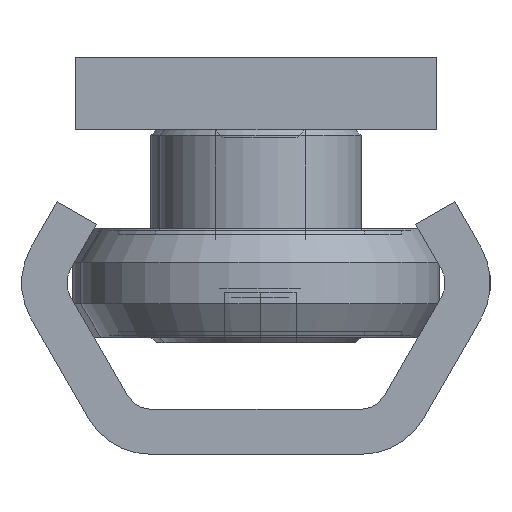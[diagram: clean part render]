
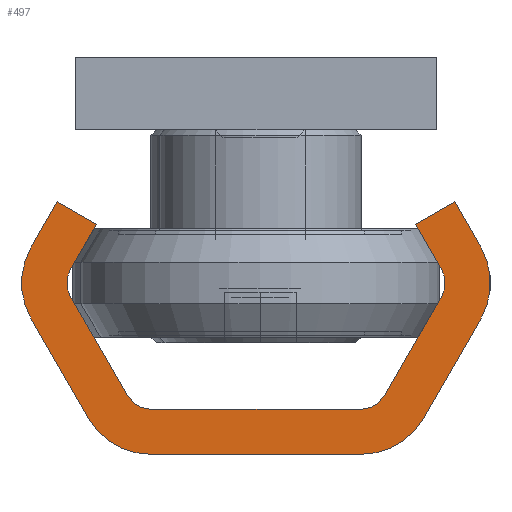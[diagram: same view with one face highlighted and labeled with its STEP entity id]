
A CAD part, left-side view. The second image highlights one B-rep face of the part: STEP entity #497.
In plain terms, the highlighted planar face has unit normal (-1, 0, 0).
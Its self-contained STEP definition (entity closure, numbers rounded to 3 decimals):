
#497 = ADVANCED_FACE( '', ( #1078 ), #1079, .F. );
#1078 = FACE_OUTER_BOUND( '', #1788, .T. );
#1079 = PLANE( '', #1789 );
#1788 = EDGE_LOOP( '', ( #2991, #2992, #2993, #2994, #2995, #2996, #2997, #2998, #2999, #3000, #3001, #3002, #3003, #3004, #3005, #3006, #3007, #3008, #3009, #3010 ) );
#1789 = AXIS2_PLACEMENT_3D( '', #3011, #3012, #3013 );
#2991 = ORIENTED_EDGE( '', *, *, #3995, .F. );
#2992 = ORIENTED_EDGE( '', *, *, #3996, .F. );
#2993 = ORIENTED_EDGE( '', *, *, #3997, .F. );
#2994 = ORIENTED_EDGE( '', *, *, #3921, .F. );
#2995 = ORIENTED_EDGE( '', *, *, #3998, .F. );
#2996 = ORIENTED_EDGE( '', *, *, #3999, .F. );
#2997 = ORIENTED_EDGE( '', *, *, #3758, .F. );
#2998 = ORIENTED_EDGE( '', *, *, #4000, .T. );
#2999 = ORIENTED_EDGE( '', *, *, #4001, .F. );
#3000 = ORIENTED_EDGE( '', *, *, #4002, .T. );
#3001 = ORIENTED_EDGE( '', *, *, #3869, .F. );
#3002 = ORIENTED_EDGE( '', *, *, #3985, .T. );
#3003 = ORIENTED_EDGE( '', *, *, #3927, .F. );
#3004 = ORIENTED_EDGE( '', *, *, #3897, .T. );
#3005 = ORIENTED_EDGE( '', *, *, #4003, .F. );
#3006 = ORIENTED_EDGE( '', *, *, #4004, .F. );
#3007 = ORIENTED_EDGE( '', *, *, #4005, .F. );
#3008 = ORIENTED_EDGE( '', *, *, #3909, .F. );
#3009 = ORIENTED_EDGE( '', *, *, #4006, .F. );
#3010 = ORIENTED_EDGE( '', *, *, #4007, .F. );
#3011 = CARTESIAN_POINT( '', ( 0., -5.825, -4. ) );
#3012 = DIRECTION( '', ( 1., 0., 0. ) );
#3013 = DIRECTION( '', ( 0., 0., -1. ) );
#3758 = EDGE_CURVE( '', #4306, #4307, #4308, .T. );
#3869 = EDGE_CURVE( '', #4496, #4497, #4498, .T. );
#3897 = EDGE_CURVE( '', #4538, #4539, #4540, .T. );
#3909 = EDGE_CURVE( '', #4555, #4556, #4557, .T. );
#3921 = EDGE_CURVE( '', #4575, #4576, #4577, .T. );
#3927 = EDGE_CURVE( '', #4538, #4584, #4585, .T. );
#3985 = EDGE_CURVE( '', #4496, #4584, #4669, .T. );
#3995 = EDGE_CURVE( '', #4683, #4684, #4685, .T. );
#3996 = EDGE_CURVE( '', #4686, #4683, #4687, .T. );
#3997 = EDGE_CURVE( '', #4576, #4686, #4688, .T. );
#3998 = EDGE_CURVE( '', #4689, #4575, #4690, .T. );
#3999 = EDGE_CURVE( '', #4307, #4689, #4691, .T. );
#4000 = EDGE_CURVE( '', #4306, #4692, #4693, .T. );
#4001 = EDGE_CURVE( '', #4694, #4692, #4695, .T. );
#4002 = EDGE_CURVE( '', #4694, #4497, #4696, .T. );
#4003 = EDGE_CURVE( '', #4697, #4539, #4698, .T. );
#4004 = EDGE_CURVE( '', #4699, #4697, #4700, .T. );
#4005 = EDGE_CURVE( '', #4556, #4699, #4701, .T. );
#4006 = EDGE_CURVE( '', #4702, #4555, #4703, .T. );
#4007 = EDGE_CURVE( '', #4684, #4702, #4704, .T. );
#4306 = VERTEX_POINT( '', #5069 );
#4307 = VERTEX_POINT( '', #5070 );
#4308 = LINE( '', #5071, #5072 );
#4496 = VERTEX_POINT( '', #5295 );
#4497 = VERTEX_POINT( '', #5296 );
#4498 = LINE( '', #5297, #5298 );
#4538 = VERTEX_POINT( '', #5349 );
#4539 = VERTEX_POINT( '', #5350 );
#4540 = CIRCLE( '', #5351, 1.5 );
#4555 = VERTEX_POINT( '', #5368 );
#4556 = VERTEX_POINT( '', #5369 );
#4557 = CIRCLE( '', #5370, 4. );
#4575 = VERTEX_POINT( '', #5392 );
#4576 = VERTEX_POINT( '', #5393 );
#4577 = CIRCLE( '', #5394, 4. );
#4584 = VERTEX_POINT( '', #5403 );
#4585 = LINE( '', #5404, #5405 );
#4669 = CIRCLE( '', #5508, 1.5 );
#4683 = VERTEX_POINT( '', #5522 );
#4684 = VERTEX_POINT( '', #5523 );
#4685 = LINE( '', #5524, #5525 );
#4686 = VERTEX_POINT( '', #5526 );
#4687 = CIRCLE( '', #5527, 4. );
#4688 = LINE( '', #5528, #5529 );
#4689 = VERTEX_POINT( '', #5530 );
#4690 = LINE( '', #5531, #5532 );
#4691 = LINE( '', #5533, #5534 );
#4692 = VERTEX_POINT( '', #5535 );
#4693 = CIRCLE( '', #5536, 1.5 );
#4694 = VERTEX_POINT( '', #5537 );
#4695 = LINE( '', #5538, #5539 );
#4696 = CIRCLE( '', #5540, 1.5 );
#4697 = VERTEX_POINT( '', #5541 );
#4698 = LINE( '', #5542, #5543 );
#4699 = VERTEX_POINT( '', #5544 );
#4700 = LINE( '', #5545, #5546 );
#4701 = LINE( '', #5547, #5548 );
#4702 = VERTEX_POINT( '', #5549 );
#4703 = LINE( '', #5550, #5551 );
#4704 = CIRCLE( '', #5552, 4. );
#5069 = CARTESIAN_POINT( '', ( 0., 10.299, -10.25 ) );
#5070 = CARTESIAN_POINT( '', ( 0., 8.856, -12.75 ) );
#5071 = CARTESIAN_POINT( '', ( 0., 10.299, -10.25 ) );
#5072 = VECTOR( '', #5924, 1000. );
#5295 = CARTESIAN_POINT( '', ( 0., -5.825, -2.5 ) );
#5296 = CARTESIAN_POINT( '', ( 0., 5.825, -2.5 ) );
#5297 = CARTESIAN_POINT( '', ( 0., -5.825, -2.5 ) );
#5298 = VECTOR( '', #6125, 1000. );
#5349 = CARTESIAN_POINT( '', ( 0., -10.299, -8.75 ) );
#5350 = CARTESIAN_POINT( '', ( 0., -10.299, -10.25 ) );
#5351 = AXIS2_PLACEMENT_3D( '', #6158, #6159, #6160 );
#5368 = CARTESIAN_POINT( '', ( 0., -12.464, -7.5 ) );
#5369 = CARTESIAN_POINT( '', ( 0., -12.464, -11.5 ) );
#5370 = AXIS2_PLACEMENT_3D( '', #6175, #6176, #6177 );
#5392 = CARTESIAN_POINT( '', ( 0., 12.464, -11.5 ) );
#5393 = CARTESIAN_POINT( '', ( 0., 12.464, -7.5 ) );
#5394 = AXIS2_PLACEMENT_3D( '', #6194, #6195, #6196 );
#5403 = CARTESIAN_POINT( '', ( 0., -7.124, -3.25 ) );
#5404 = CARTESIAN_POINT( '', ( 0., -10.299, -8.75 ) );
#5405 = VECTOR( '', #6202, 1000. );
#5508 = AXIS2_PLACEMENT_3D( '', #6273, #6274, #6275 );
#5522 = CARTESIAN_POINT( '', ( 0., 5.825, 0. ) );
#5523 = CARTESIAN_POINT( '', ( 0., -5.825, 0. ) );
#5524 = CARTESIAN_POINT( '', ( 0., 5.825, 0. ) );
#5525 = VECTOR( '', #6288, 1000. );
#5526 = CARTESIAN_POINT( '', ( 0., 9.289, -2. ) );
#5527 = AXIS2_PLACEMENT_3D( '', #6289, #6290, #6291 );
#5528 = CARTESIAN_POINT( '', ( 0., 12.464, -7.5 ) );
#5529 = VECTOR( '', #6292, 1000. );
#5530 = CARTESIAN_POINT( '', ( 0., 11.021, -14. ) );
#5531 = CARTESIAN_POINT( '', ( 0., 11.021, -14. ) );
#5532 = VECTOR( '', #6293, 1000. );
#5533 = CARTESIAN_POINT( '', ( 0., 8.856, -12.75 ) );
#5534 = VECTOR( '', #6294, 1000. );
#5535 = CARTESIAN_POINT( '', ( 0., 10.299, -8.75 ) );
#5536 = AXIS2_PLACEMENT_3D( '', #6295, #6296, #6297 );
#5537 = CARTESIAN_POINT( '', ( 0., 7.124, -3.25 ) );
#5538 = CARTESIAN_POINT( '', ( 0., 7.124, -3.25 ) );
#5539 = VECTOR( '', #6298, 1000. );
#5540 = AXIS2_PLACEMENT_3D( '', #6299, #6300, #6301 );
#5541 = CARTESIAN_POINT( '', ( 0., -8.856, -12.75 ) );
#5542 = CARTESIAN_POINT( '', ( 0., -8.856, -12.75 ) );
#5543 = VECTOR( '', #6302, 1000. );
#5544 = CARTESIAN_POINT( '', ( 0., -11.021, -14. ) );
#5545 = CARTESIAN_POINT( '', ( 0., -11.021, -14. ) );
#5546 = VECTOR( '', #6303, 1000. );
#5547 = CARTESIAN_POINT( '', ( 0., -12.464, -11.5 ) );
#5548 = VECTOR( '', #6304, 1000. );
#5549 = CARTESIAN_POINT( '', ( 0., -9.289, -2. ) );
#5550 = CARTESIAN_POINT( '', ( 0., -9.289, -2. ) );
#5551 = VECTOR( '', #6305, 1000. );
#5552 = AXIS2_PLACEMENT_3D( '', #6306, #6307, #6308 );
#5924 = DIRECTION( '', ( 0., -0.5, -0.866 ) );
#6125 = DIRECTION( '', ( 0., 1., 0. ) );
#6158 = CARTESIAN_POINT( '', ( 0., -9., -9.5 ) );
#6159 = DIRECTION( '', ( 1., 0., 0. ) );
#6160 = DIRECTION( '', ( 0., 0., -1. ) );
#6175 = CARTESIAN_POINT( '', ( 0., -9., -9.5 ) );
#6176 = DIRECTION( '', ( 1., 0., 0. ) );
#6177 = DIRECTION( '', ( 0., 0., -1. ) );
#6194 = CARTESIAN_POINT( '', ( 0., 9., -9.5 ) );
#6195 = DIRECTION( '', ( 1., 0., 0. ) );
#6196 = DIRECTION( '', ( 0., 0., -1. ) );
#6202 = DIRECTION( '', ( 0., 0.5, 0.866 ) );
#6273 = CARTESIAN_POINT( '', ( 0., -5.825, -4. ) );
#6274 = DIRECTION( '', ( 1., 0., 0. ) );
#6275 = DIRECTION( '', ( 0., 0., -1. ) );
#6288 = DIRECTION( '', ( 0., -1., 0. ) );
#6289 = CARTESIAN_POINT( '', ( 0., 5.825, -4. ) );
#6290 = DIRECTION( '', ( 1., 0., 0. ) );
#6291 = DIRECTION( '', ( 0., 0., -1. ) );
#6292 = DIRECTION( '', ( 0., -0.5, 0.866 ) );
#6293 = DIRECTION( '', ( 0., 0.5, 0.866 ) );
#6294 = DIRECTION( '', ( 0., 0.866, -0.5 ) );
#6295 = CARTESIAN_POINT( '', ( 0., 9., -9.5 ) );
#6296 = DIRECTION( '', ( 1., 0., 0. ) );
#6297 = DIRECTION( '', ( 0., 0., -1. ) );
#6298 = DIRECTION( '', ( 0., 0.5, -0.866 ) );
#6299 = CARTESIAN_POINT( '', ( 0., 5.825, -4. ) );
#6300 = DIRECTION( '', ( 1., 0., 0. ) );
#6301 = DIRECTION( '', ( 0., 0., -1. ) );
#6302 = DIRECTION( '', ( 0., -0.5, 0.866 ) );
#6303 = DIRECTION( '', ( 0., 0.866, 0.5 ) );
#6304 = DIRECTION( '', ( 0., 0.5, -0.866 ) );
#6305 = DIRECTION( '', ( 0., -0.5, -0.866 ) );
#6306 = CARTESIAN_POINT( '', ( 0., -5.825, -4. ) );
#6307 = DIRECTION( '', ( 1., 0., 0. ) );
#6308 = DIRECTION( '', ( 0., 0., -1. ) );
